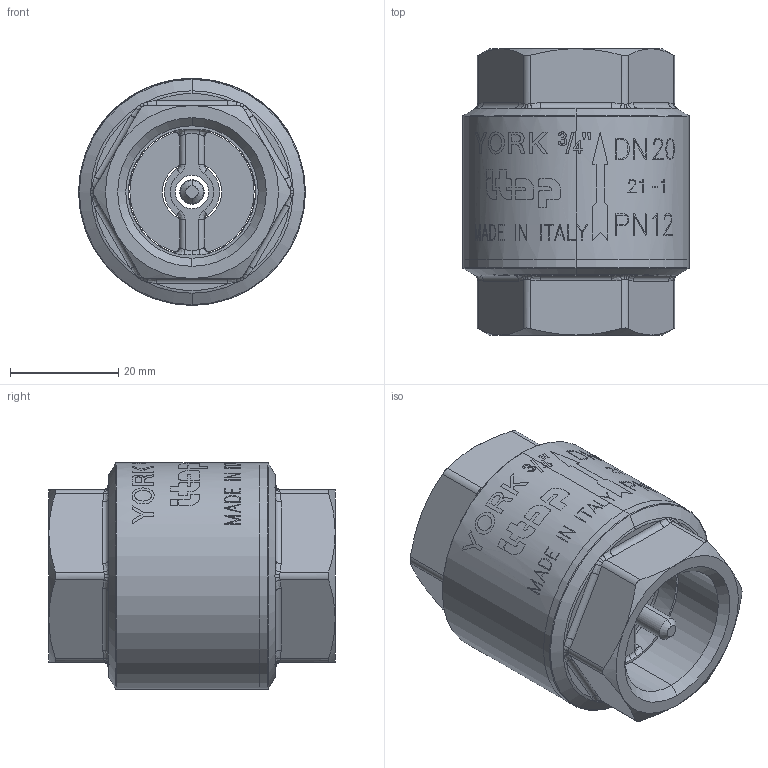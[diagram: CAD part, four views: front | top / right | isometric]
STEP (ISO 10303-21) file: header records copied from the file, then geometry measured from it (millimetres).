
FILE_DESCRIPTION (( 'STEP AP203' ), '1' );
FILE_NAME ('1030034.step', '2020-09-01T13:19:35', ( '' ), ( '' ), 'SwSTEP 2.0', 'SolidWorks 2018', '' );
FILE_SCHEMA (( 'CONFIG_CONTROL_DESIGN' ));
Length unit declared in the file: millimetre
Products named in the file (1): 1030034
Bounding box: 42 x 52.99 x 42 mm (x, y, z)
Surface area: 14068 mm2 (no closed solid volume)
Topology: 0 solids, 7 shells, 263 faces, 1193 edges, 978 vertices
Faces by surface type: cylinder 93, bspline 80, plane 33, cone 28, torus 25, sphere 4
Entity records: 16519 total; most frequent: CARTESIAN_POINT 7737, ORIENTED_EDGE 2308, DIRECTION 1239, EDGE_CURVE 1193, VERTEX_POINT 978, B_SPLINE_CURVE_WITH_KNOTS 653, AXIS2_PLACEMENT_3D 523, CIRCLE 339
